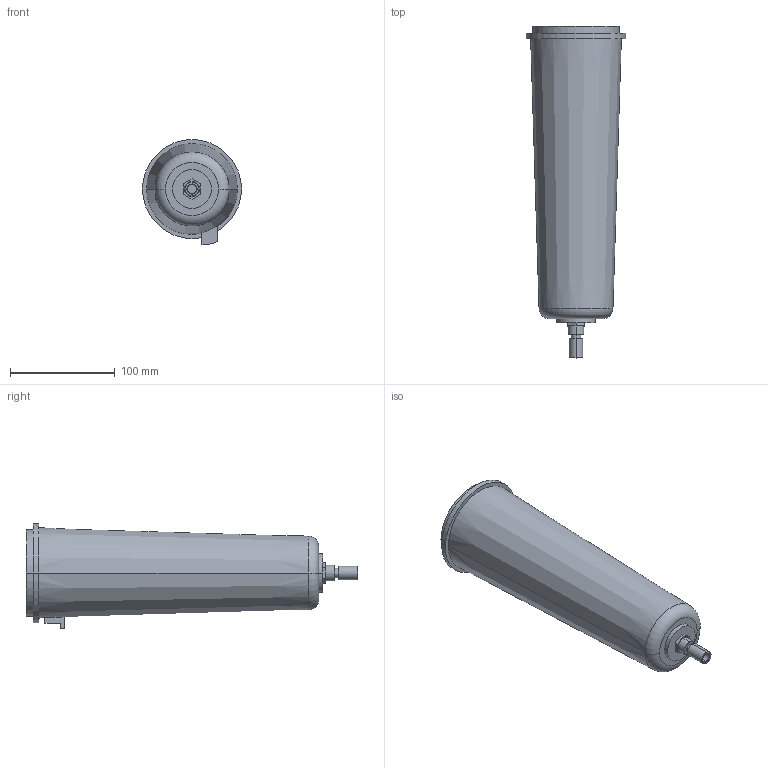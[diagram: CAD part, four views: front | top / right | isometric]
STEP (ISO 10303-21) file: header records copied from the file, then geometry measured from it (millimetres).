
FILE_DESCRIPTION((''),'2;1');
FILE_NAME('1827009605','2015-05-12T',('mla1hc'),(''),'PRO/ENGINEER BY PARAMETRIC TECHNOLOGY CORPORATION, 2011490','PRO/ENGINEER BY PARAMETRIC TECHNOLOGY CORPORATION, 2011490','');
FILE_SCHEMA(('AUTOMOTIVE_DESIGN_CC2 { 1 2 10303 214 -1 1 5 2 }'));
Length unit declared in the file: millimetre
Products named in the file (1): 1827009605
Bounding box: 94.5 x 316.5 x 100.16 mm (x, y, z)
Volume: 1366878.7 mm3; surface area: 82967.8 mm2
Topology: 1 solids, 1 shells, 45 faces, 96 edges, 62 vertices
Faces by surface type: plane 21, cylinder 16, cone 6, torus 2
Entity records: 1243 total; most frequent: DIRECTION 230, CARTESIAN_POINT 213, ORIENTED_EDGE 192, EDGE_CURVE 96, AXIS2_PLACEMENT_3D 91, VERTEX_POINT 62, EDGE_LOOP 54, VECTOR 48
